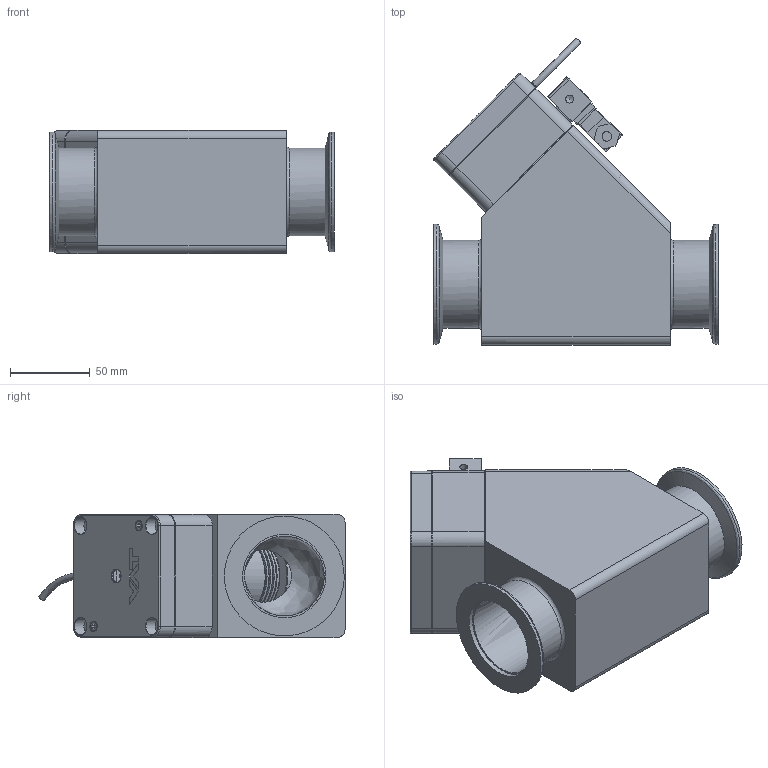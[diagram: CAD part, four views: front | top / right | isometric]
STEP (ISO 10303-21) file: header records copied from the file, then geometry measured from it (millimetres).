
FILE_DESCRIPTION((''),'2;1');
FILE_NAME('C:\Temp\Ideas\258909.stp','2005-02-11T15:36:54',('User'),( 'SDRC'),'I-DEAS Master Series 9','UNIX','Yes');
FILE_SCHEMA(('CONFIG_CONTROL_DESIGN'));
Length unit declared in the file: millimetre
Assembly tree (20 placements, depth 0):
Bounding box: 178.01 x 191.58 x 77 mm (x, y, z)
Volume: 669574.8 mm3; surface area: 275491 mm2
Topology: 23 solids, 27 shells, 833 faces, 1925 edges, 1267 vertices
Faces by surface type: bspline 833
Entity records: 27262 total; most frequent: CARTESIAN_POINT 14357, ORIENTED_EDGE 3452, EDGE_CURVE 1727, VERTEX_POINT 1107, EDGE_LOOP 905, FACE_OUTER_BOUND 758, ADVANCED_FACE 758, B_SPLINE_CURVE_WITH_KNOTS 598
